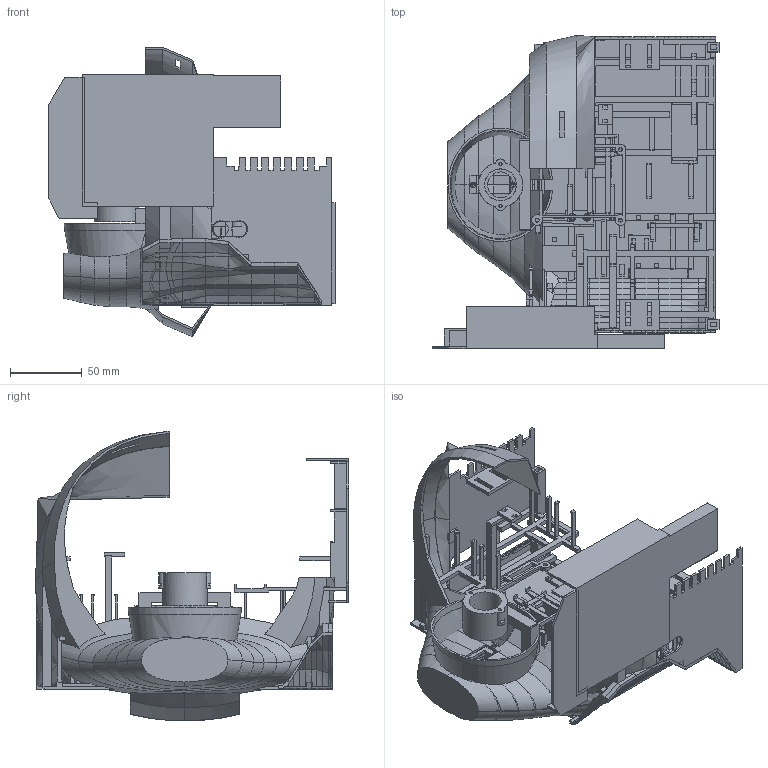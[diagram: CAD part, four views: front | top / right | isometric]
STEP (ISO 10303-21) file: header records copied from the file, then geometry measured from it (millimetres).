
FILE_DESCRIPTION(('Open CASCADE Model'),'2;1');
FILE_NAME('Open CASCADE Shape Model','2026-11-19T23:22:44',('Author'),( 'Open CASCADE'),'Open CASCADE STEP processor 8.0','Open CASCADE 8.0' ,'Unknown');
FILE_SCHEMA(('AUTOMOTIVE_DESIGN { 1 0 10303 214 1 1 1 1 }'));
Products named in the file (1): Open CASCADE STEP translator 8.0 1
Bounding box: 199.1 x 218 x 201.64 mm (x, y, z)
Volume: 260061.3 mm3; surface area: 299812.2 mm2
Topology: 1 solids, 3 shells, 2730 faces, 7861 edges, 5103 vertices
Faces by surface type: plane 2258, bspline 372, cylinder 73, cone 23, sphere 4
Full cylindrical faces by diameter (mm): 1.8 x2, 2.2 x6, 2.3 x2, 2.76 x4, 2.8 x4, 3.72 x2, 22.12 x1, 22.2 x1, 31 x1
Entity records: 211205 total; most frequent: CARTESIAN_POINT 70744, DIRECTION 20136, ORIENTED_EDGE 15792, PCURVE 15722, DEFINITIONAL_REPRESENTATION 15722, LINE 14534, VECTOR 14534, B_SPLINE_CURVE_WITH_KNOTS 8431
